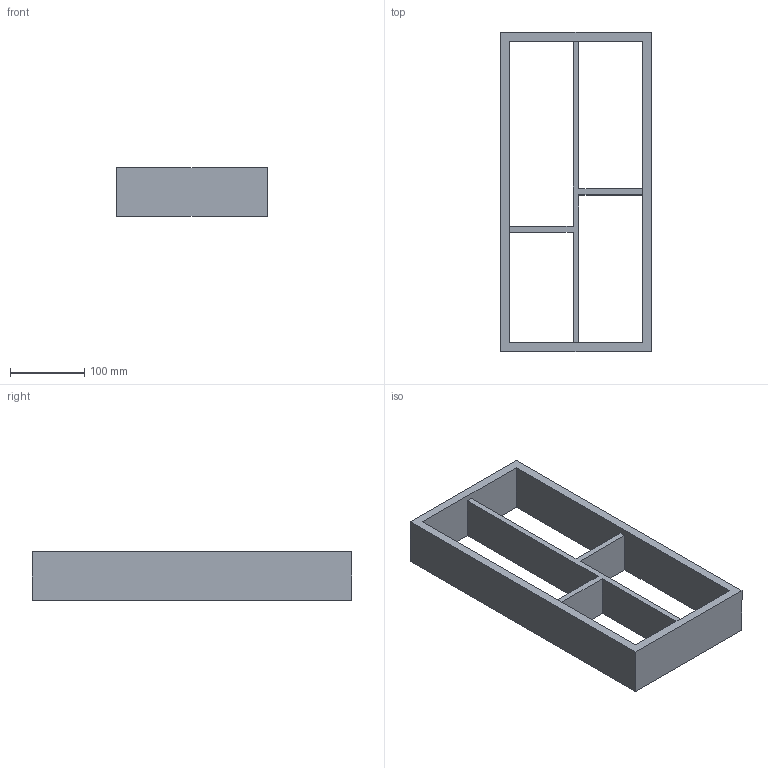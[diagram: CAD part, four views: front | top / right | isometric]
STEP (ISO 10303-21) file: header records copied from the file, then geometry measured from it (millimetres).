
FILE_DESCRIPTION (( 'STEP AP214' ), '1' );
FILE_NAME ('Vario Multi NL450_B300_19 mm_Alu.step', '2010-10-07T06:24:25', ( 'grass' ), ( '' ), 'SwSTEP 2.0', 'SolidWorks 2010', '' );
FILE_SCHEMA (( 'AUTOMOTIVE_DESIGN' ));
Length unit declared in the file: millimetre
Products named in the file (1): Vario Multi NL450_B300_19 mm_Alu
Bounding box: 202 x 429 x 65 mm (x, y, z)
Volume: 1209120 mm3; surface area: 258970 mm2
Topology: 1 solids, 1 shells, 19 faces, 60 edges, 40 vertices
Faces by surface type: plane 19
Entity records: 704 total; most frequent: ORIENTED_EDGE 120, CARTESIAN_POINT 120, DIRECTION 100, EDGE_CURVE 60, LINE 60, VECTOR 60, VERTEX_POINT 40, EDGE_LOOP 24
